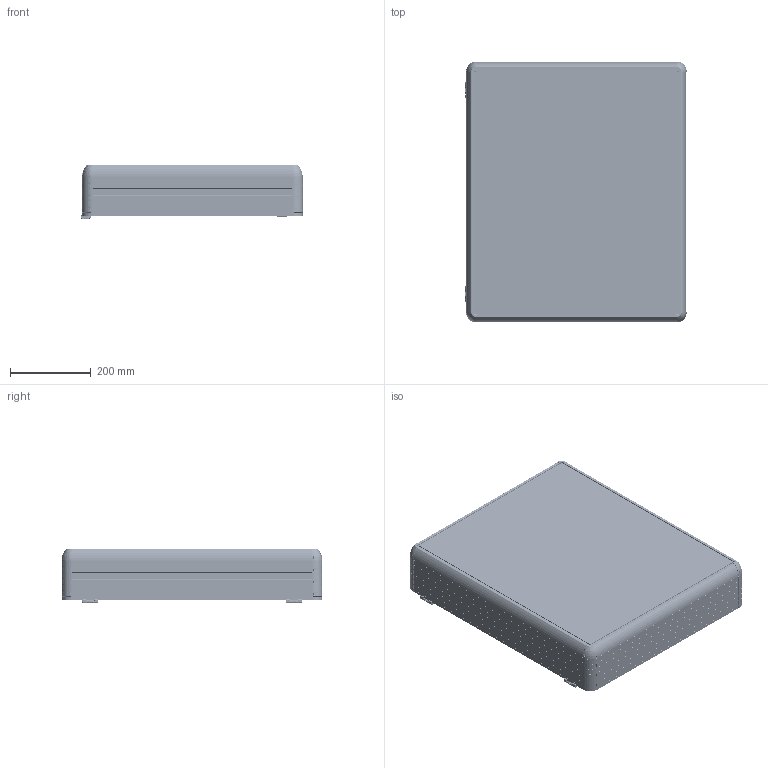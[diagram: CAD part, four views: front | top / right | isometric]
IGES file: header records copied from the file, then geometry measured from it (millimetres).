
Start section: SolidWorks IGES file using analytic representation for surfaces
Global section: file name: D:\PANO_STEP\120\120'lik data\1200-0014.IGS; native system: SolidWorks 2022; preprocessor: SolidWorks 2022; author: User; date: 220420.133741; units: millimetre
Bounding box: 549.03 x 647 x 136.15 mm (x, y, z)
Surface area: 2176977.3 mm2 (no closed solid volume)
Topology: 0 solids, 0 shells, 5793 faces, 48808 edges, 48719 vertices
Faces by surface type: bspline 3709, revolution 2084
